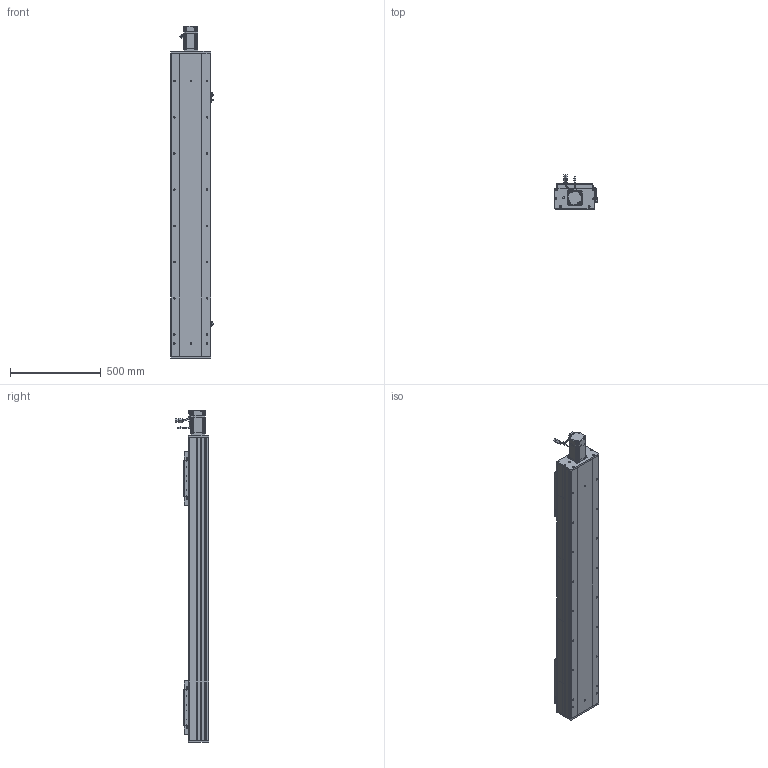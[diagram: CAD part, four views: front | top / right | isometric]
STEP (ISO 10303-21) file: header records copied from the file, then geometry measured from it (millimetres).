
FILE_DESCRIPTION (( 'STEP AP203' ), '1' );
FILE_NAME ('RY220F-L2525-300-MK.SLDASM_1250.step', '2022-07-04T01:03:59', ( '' ), ( '' ), 'SwSTEP 2.0', 'SolidWorks 2016', '' );
FILE_SCHEMA (( 'CONFIG_CONTROL_DESIGN' ));
Length unit declared in the file: millimetre
Products named in the file (15): RY220F-672覜茼んえ; RY220F-奻裔啣-300_1250; RY220Fヶ裔啣; RY220F-L2525-300-MK.SLDASM_1250; RY220F綴裔啣; RY220F菁釱MK-300_1250; 覜茼ん672; 滅袉蝶18-24; 怢湛750W_ECMA-CX0807ES; RY220F-詩湍揤踡輸; RY220电机支撑座FK20（PCD90M6）; 滅袉蝶18-20; RY220F-滅鳥奻裔; RY220F-祥凄詩湍-MK-300_1250; RY220F臏賑釱25-32佪裝
Assembly tree (23 placements, depth 2):
  RY220F-L2525-300-MK.SLDASM_1250
    RY220F菁釱MK-300_1250
    RY220电机支撑座FK20（PCD90M6）
    RY220F-奻裔啣-300_1250  x2
    怢湛750W_ECMA-CX0807ES
    RY220F臏賑釱25-32佪裝  x2
    RY220F-滅鳥奻裔  x2
    滅袉蝶18-20
    滅袉蝶18-24  x3
    RY220Fヶ裔啣
    RY220F綴裔啣
    RY220F-祥凄詩湍-MK-300_1250
    RY220F-詩湍揤踡輸  x2
    覜茼ん672  x3
    RY220F-672覜茼んえ  x2
Bounding box: 233.7 x 187.27 x 1834.3 mm (x, y, z)
Volume: 16495705.3 mm3; surface area: 4143898.2 mm2
Topology: 24 solids, 24 shells, 2798 faces, 7658 edges, 4732 vertices
Faces by surface type: cylinder 1270, plane 1030, cone 435, bspline 37, sphere 16, torus 10
Entity records: 69958 total; most frequent: CARTESIAN_POINT 18648, ORIENTED_EDGE 10378, DIRECTION 10146, EDGE_CURVE 5189, AXIS2_PLACEMENT_3D 3623, VERTEX_POINT 3372, LINE 2900, VECTOR 2900
